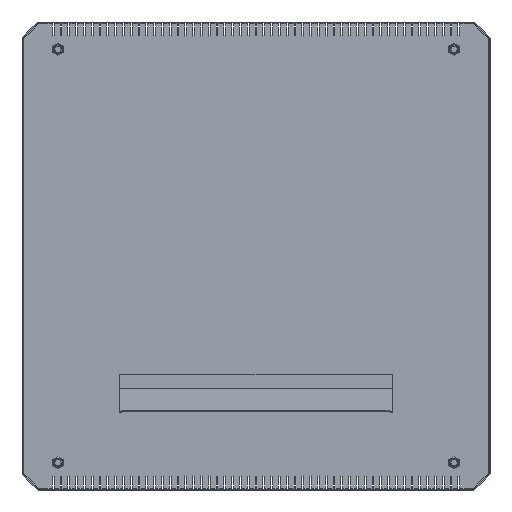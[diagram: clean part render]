
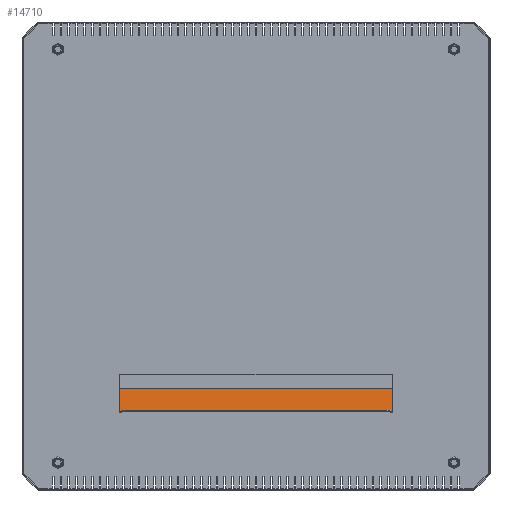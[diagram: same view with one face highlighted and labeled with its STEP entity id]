
A CAD part, front view. The second image highlights one B-rep face of the part: STEP entity #14710.
In plain terms, the highlighted planar face has unit normal (0, -0.996, 0.09).
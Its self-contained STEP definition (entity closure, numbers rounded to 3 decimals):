
#4157 = EDGE_LOOP ( 'NONE', ( #9378, #9380, #9379, #9381 ) ) ;
#5562 = AXIS2_PLACEMENT_3D ( 'NONE', #11403, #11404, #11405 ) ;
#5566 = FACE_OUTER_BOUND ( 'NONE', #4157, .T. ) ;
#9378 = ORIENTED_EDGE ( 'NONE', *, *, #24871, .F. ) ;
#9379 = ORIENTED_EDGE ( 'NONE', *, *, #24863, .F. ) ;
#9380 = ORIENTED_EDGE ( 'NONE', *, *, #24873, .F. ) ;
#9381 = ORIENTED_EDGE ( 'NONE', *, *, #24884, .T. ) ;
#11402 = PLANE ( 'NONE',  #5562 ) ;
#11403 = CARTESIAN_POINT ( 'NONE',  ( 175., -3.6, -169.85 ) ) ;
#11404 = DIRECTION ( 'NONE',  ( 0., 0.996, -0.09 ) ) ;
#11405 = DIRECTION ( 'NONE',  ( 0., 0.09, 0.996 ) ) ;
#14710 = ADVANCED_FACE ( 'NONE', ( #5566 ), #11402, .F. ) ;
#22063 = VECTOR ( 'NONE', #27954, 1000. ) ;
#22076 = VECTOR ( 'NONE', #27978, 1000. ) ;
#22081 = VECTOR ( 'NONE', #27984, 1000. ) ;
#22101 = VECTOR ( 'NONE', #28017, 1000. ) ;
#24863 = EDGE_CURVE ( 'NONE', #37806, #37810, #27952, .T. ) ;
#24871 = EDGE_CURVE ( 'NONE', #37808, #37804, #27976, .T. ) ;
#24873 = EDGE_CURVE ( 'NONE', #37810, #37808, #27982, .T. ) ;
#24884 = EDGE_CURVE ( 'NONE', #37806, #37804, #28015, .T. ) ;
#27952 = LINE ( 'NONE', #27953, #22063 ) ;
#27953 = CARTESIAN_POINT ( 'NONE',  ( 175., -3.6, -169.85 ) ) ;
#27954 = DIRECTION ( 'NONE',  ( 0., -0.09, -0.996 ) ) ;
#27976 = LINE ( 'NONE', #27977, #22076 ) ;
#27977 = CARTESIAN_POINT ( 'NONE',  ( -175., -6.3, -199.85 ) ) ;
#27978 = DIRECTION ( 'NONE',  ( 0., 0.09, 0.996 ) ) ;
#27982 = LINE ( 'NONE', #27983, #22081 ) ;
#27983 = CARTESIAN_POINT ( 'NONE',  ( 175., -6.3, -199.85 ) ) ;
#27984 = DIRECTION ( 'NONE',  ( -1., 0., 0. ) ) ;
#28015 = LINE ( 'NONE', #28016, #22101 ) ;
#28016 = CARTESIAN_POINT ( 'NONE',  ( 175., -3.6, -169.85 ) ) ;
#28017 = DIRECTION ( 'NONE',  ( -1., 0., 0. ) ) ;
#29273 = CARTESIAN_POINT ( 'NONE',  ( -175., -3.6, -169.85 ) ) ;
#29274 = CARTESIAN_POINT ( 'NONE',  ( 175., -3.6, -169.85 ) ) ;
#29275 = CARTESIAN_POINT ( 'NONE',  ( -175., -6.3, -199.85 ) ) ;
#29276 = CARTESIAN_POINT ( 'NONE',  ( 175., -6.3, -199.85 ) ) ;
#37804 = VERTEX_POINT ( 'NONE', #29273 ) ;
#37806 = VERTEX_POINT ( 'NONE', #29274 ) ;
#37808 = VERTEX_POINT ( 'NONE', #29275 ) ;
#37810 = VERTEX_POINT ( 'NONE', #29276 ) ;
